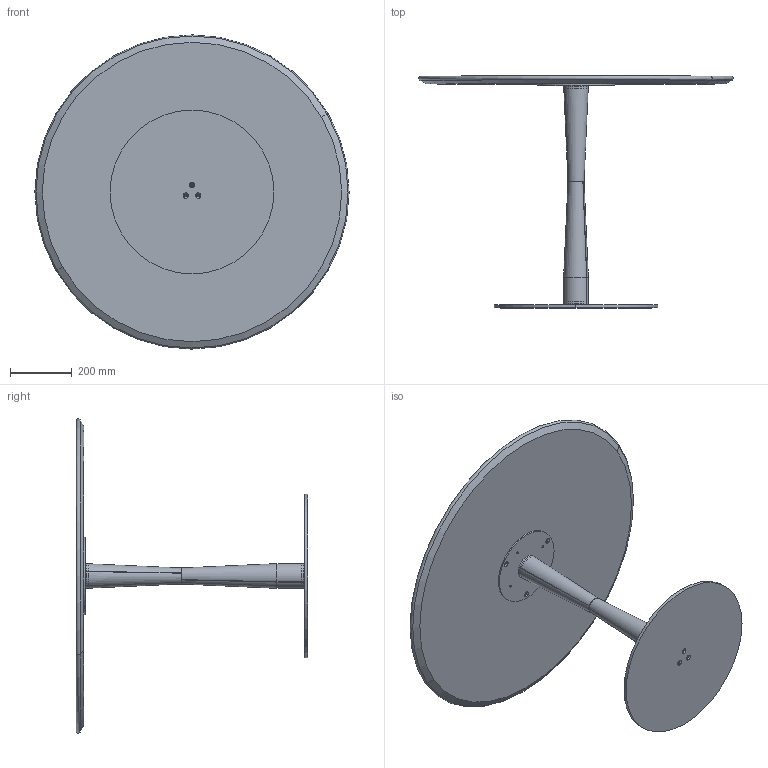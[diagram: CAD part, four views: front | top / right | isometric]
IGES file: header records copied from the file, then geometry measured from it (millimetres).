
Start section: SolidWorks IGES file using analytic representation for surfaces
Global section: file name: Y:\eforma\TECNICO\SOLIDWORKS\E-FORMA\5-TAVOLINI BISTRO\FILÚ\02 parts\FI30A.IGS; native system: SolidWorks 2022; preprocessor: SolidWorks 2022; author: eforma.tech; date: 240808.100252; units: millimetre
Bounding box: 1016.79 x 750 x 1016.79 mm (x, y, z)
Volume: 25646161.4 mm3; surface area: 4157491.1 mm2
Topology: 8 solids, 8 shells, 117 faces, 268 edges, 168 vertices
Faces by surface type: revolution 100, plane 17
